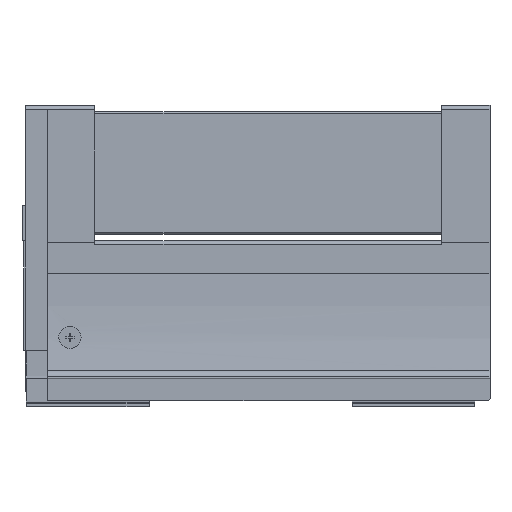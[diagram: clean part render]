
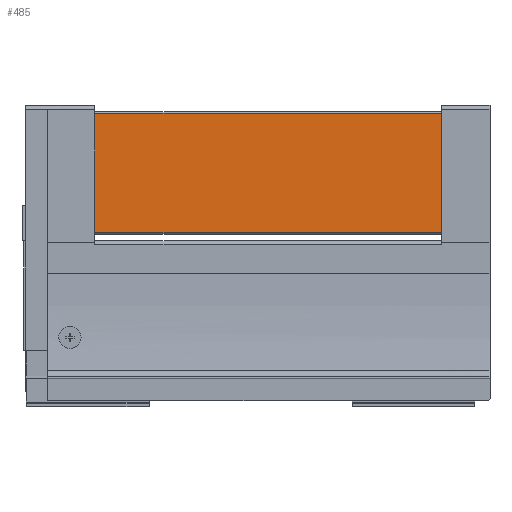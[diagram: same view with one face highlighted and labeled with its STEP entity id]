
A CAD part, left-side view. The second image highlights one B-rep face of the part: STEP entity #485.
In plain terms, the highlighted planar face has unit normal (-1, 0, 0).
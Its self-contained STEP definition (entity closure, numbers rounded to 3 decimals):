
#363 = AXIS2_PLACEMENT_3D ( 'NONE', #2444, #2450, #2451 ) ;
#485 = ADVANCED_FACE ( 'NONE', ( #1012 ), #2441, .T. ) ;
#785 = EDGE_LOOP ( 'NONE', ( #4409, #4197, #4407, #4406 ) ) ;
#1012 = FACE_OUTER_BOUND ( 'NONE', #785, .T. ) ;
#1052 = VECTOR ( 'NONE', #2853, 1000. ) ;
#1056 = LINE ( 'NONE', #2851, #1052 ) ;
#1600 = LINE ( 'NONE', #3669, #1601 ) ;
#1601 = VECTOR ( 'NONE', #3670, 1000. ) ;
#1641 = LINE ( 'NONE', #3722, #1650 ) ;
#1650 = VECTOR ( 'NONE', #3726, 1000. ) ;
#1686 = LINE ( 'NONE', #3764, #1687 ) ;
#1687 = VECTOR ( 'NONE', #3765, 1000. ) ;
#1899 = VERTEX_POINT ( 'NONE', #2630 ) ;
#1902 = VERTEX_POINT ( 'NONE', #2633 ) ;
#1932 = VERTEX_POINT ( 'NONE', #2657 ) ;
#1934 = VERTEX_POINT ( 'NONE', #2659 ) ;
#2441 = PLANE ( 'NONE',  #363 ) ;
#2444 = CARTESIAN_POINT ( 'NONE',  ( -9.6, 445., 174.798 ) ) ;
#2450 = DIRECTION ( 'NONE',  ( -1., 0., 0. ) ) ;
#2451 = DIRECTION ( 'NONE',  ( 0., 0., -1. ) ) ;
#2630 = CARTESIAN_POINT ( 'NONE',  ( -9.6, 35.3, 174.798 ) ) ;
#2633 = CARTESIAN_POINT ( 'NONE',  ( -9.6, 35.3, 87.298 ) ) ;
#2657 = CARTESIAN_POINT ( 'NONE',  ( -9.6, 289.3, 87.298 ) ) ;
#2659 = CARTESIAN_POINT ( 'NONE',  ( -9.6, 289.3, 174.798 ) ) ;
#2851 = CARTESIAN_POINT ( 'NONE',  ( -9.6, 445., 174.798 ) ) ;
#2853 = DIRECTION ( 'NONE',  ( 0., -1., 0. ) ) ;
#3669 = CARTESIAN_POINT ( 'NONE',  ( -9.6, 445., 87.298 ) ) ;
#3670 = DIRECTION ( 'NONE',  ( 0., -1., 0. ) ) ;
#3722 = CARTESIAN_POINT ( 'NONE',  ( -9.6, 289.3, 174.798 ) ) ;
#3726 = DIRECTION ( 'NONE',  ( 0., 0., -1. ) ) ;
#3764 = CARTESIAN_POINT ( 'NONE',  ( -9.6, 35.3, 174.798 ) ) ;
#3765 = DIRECTION ( 'NONE',  ( 0., 0., -1. ) ) ;
#4197 = ORIENTED_EDGE ( 'NONE', *, *, #4840, .T. ) ;
#4406 = ORIENTED_EDGE ( 'NONE', *, *, #4472, .F. ) ;
#4407 = ORIENTED_EDGE ( 'NONE', *, *, #4911, .F. ) ;
#4409 = ORIENTED_EDGE ( 'NONE', *, *, #4892, .T. ) ;
#4472 = EDGE_CURVE ( 'NONE', #1934, #1899, #1056, .T. ) ;
#4840 = EDGE_CURVE ( 'NONE', #1932, #1902, #1600, .T. ) ;
#4892 = EDGE_CURVE ( 'NONE', #1934, #1932, #1641, .T. ) ;
#4911 = EDGE_CURVE ( 'NONE', #1899, #1902, #1686, .T. ) ;
